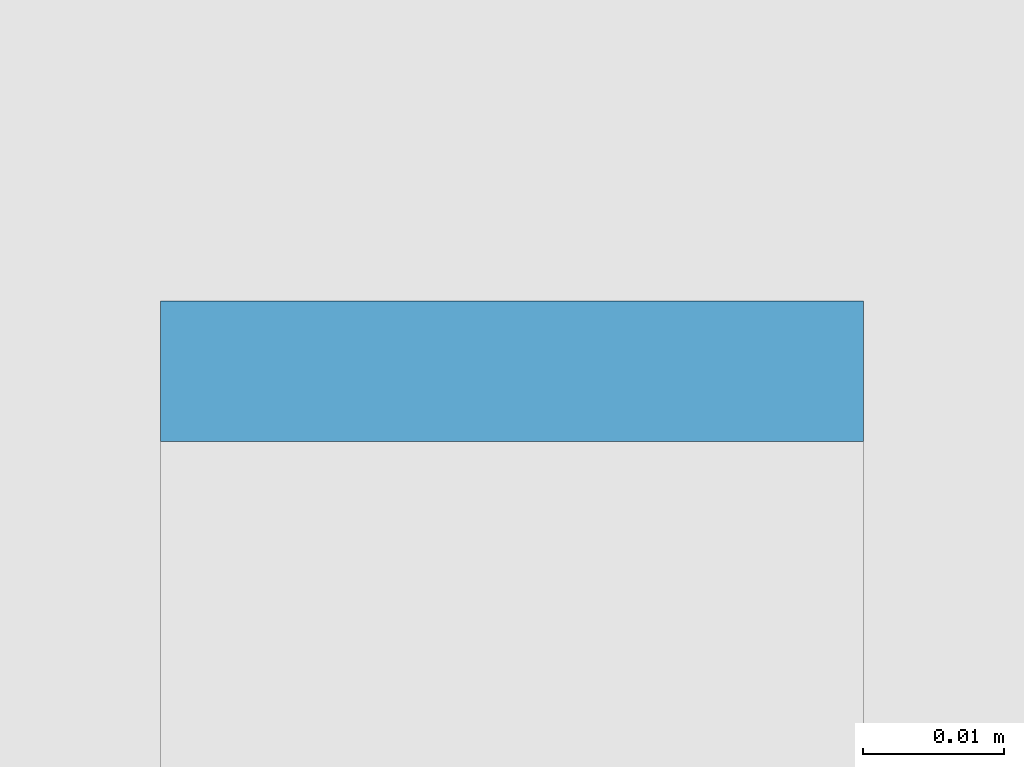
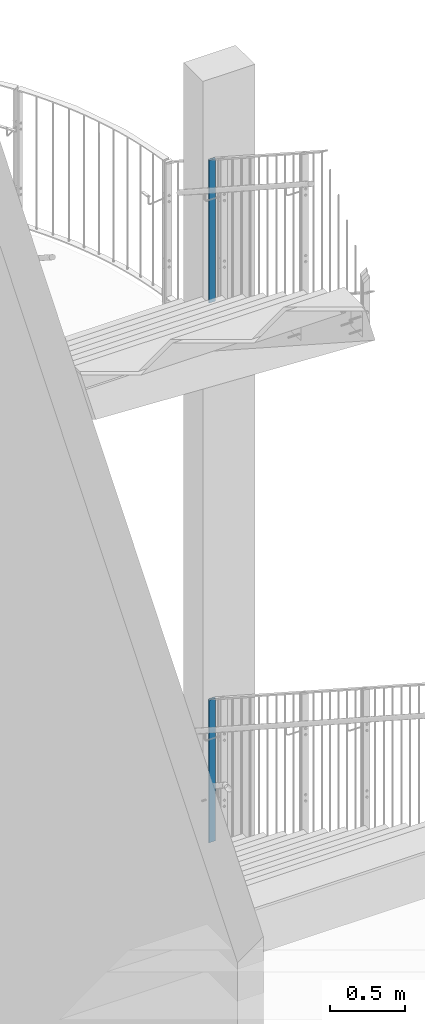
# One storey, part 81 of 296: 2 columns.
"""IFC2X3 building model written with IfcOpenShell, lengths in millimetres."""

from ifc_helpers import new_model, entity, si_unit, converted_unit, frame, origin, origin_with_axes, origin_2d, place, context, project, spatial, rectangle, extrude, clip, halfspace, material, element, save


model = new_model("IFC2X3")

# Units and contexts
model_context = context("Model", 3, precision=1e-09, world=origin_with_axes())
ifc_project = project(units=[si_unit("LENGTHUNIT", "METRE", prefix="MILLI"), si_unit("AREAUNIT", "SQUARE_METRE"), si_unit("VOLUMEUNIT", "CUBIC_METRE"), converted_unit("PLANEANGLEUNIT", "DEGREE", entity("IfcPlaneAngleMeasure", 0.01745329), si_unit("PLANEANGLEUNIT", "RADIAN"), dimensions=[0, 0, 0, 0, 0, 0, 0])], contexts=[model_context])

# Site, building, storey
site_placement = place(None, origin_with_axes())
site = spatial("IfcSite", under=ifc_project, at=site_placement, Name="TZD-S?d | Treppenhausgel?nder", CompositionType="ELEMENT")
building_placement = place(site_placement, origin_with_axes())
building = spatial("IfcBuilding", under=site, at=building_placement, Name="Struktur 1", CompositionType="ELEMENT")
storey_placement = place(building_placement, origin_with_axes())
storey = spatial("IfcBuildingStorey", under=building, at=storey_placement, Name="Default Storey", CompositionType="ELEMENT", Elevation=0.0)

# Columns
ifc_material = material(Name="S235JR")
column_1_placement = place(None, frame((5894.999, -300.0, 11987.965234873), z_axis=(0.0, 0.0, -1.0), x_axis=(0.0, 1.0, 0.0)))
element("IfcColumn", 1, at=column_1_placement, inside=storey, material=ifc_material, Name="-", ObjectType="-", context=model_context, shape_type="Clipping", body=[
    clip(clip(extrude(rectangle(XDim=10.0, YDim=50.0, at=origin_2d()), origin(), (0.0, 0.0, -1.0), 1224.761565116), halfspace(frame((-5301.832064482, -5894.999, 1687.671443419), z_axis=(0.477766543, 0.0, 0.878486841), x_axis=(0.0, -1.0, 0.0)), True)), halfspace(frame((5695.731879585, -5894.999, 3654.048175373), z_axis=(0.543478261, 0.0, -0.839423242), x_axis=(0.0, -1.0, 0.0)), True)),
])
column_2_placement = place(None, frame((5894.999, -300.0, 7609.588498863), z_axis=(0.0, 0.0, -1.0), x_axis=(0.0, 1.0, 0.0)))
element("IfcColumn", 2, at=column_2_placement, inside=storey, material=ifc_material, Name="-", ObjectType="-", context=model_context, shape_type="Clipping", body=[
    clip(clip(extrude(rectangle(XDim=10.0, YDim=50.0, at=origin_2d()), origin(), (0.0, 0.0, -1.0), 1224.762694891), halfspace(frame((-3463.787738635, -5894.999, 687.69841735), z_axis=(0.477698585, 0.0, 0.878523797), x_axis=(0.0, -1.0, 0.0)), True)), halfspace(frame((3698.723467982, -5894.999, 2361.908163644), z_axis=(0.543608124, 0.0, -0.839339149), x_axis=(0.0, -1.0, 0.0)), True)),
])

save(model, "model.ifc")
